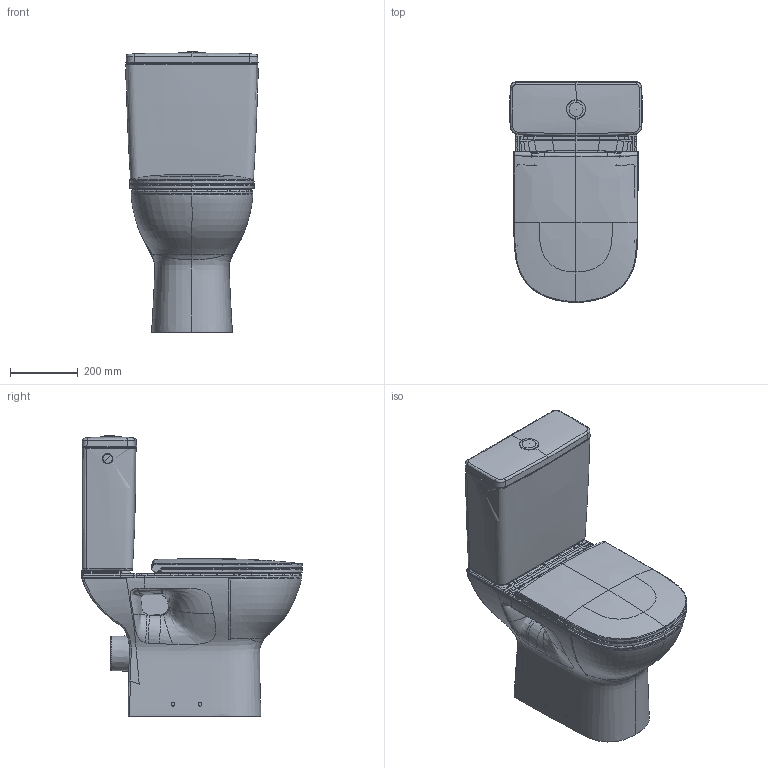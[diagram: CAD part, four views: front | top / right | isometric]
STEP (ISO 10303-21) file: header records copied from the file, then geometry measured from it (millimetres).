
FILE_DESCRIPTION(/* description */ (''),/* implementation_level */ '2;1');
FILE_NAME(/* name */ 'BIM-Kombi_824086_WC-Sitz-Tank.stp',/* time_stamp */ '2022-02-24T15:59:54+01:00',/* author */ (''),/* organization */ (''),/* preprocessor_version */ 'ST-DEVELOPER v16.7',/* originating_system */ 'SIEMENS PLM Software NX 1946',/* authorisation */ '');
FILE_SCHEMA (('AUTOMOTIVE_DESIGN { 1 0 10303 214 3 1 1 1 }'));
Products named in the file (1): stoj70DC1AFEsrhi
Bounding box: 394.95 x 651.67 x 827.56 mm (x, y, z)
Volume: 57327894.5 mm3; surface area: 2339911.2 mm2
Topology: 4 solids, 4 shells, 1274 faces, 3253 edges, 2010 vertices
Faces by surface type: bspline 918, plane 187, cylinder 101, extrusion 40, cone 17, torus 6, sphere 5
Full cylindrical faces by diameter (mm): 9 x2, 11 x4, 15 x2
Entity records: 190622 total; most frequent: CARTESIAN_POINT 168082, ORIENTED_EDGE 6448, EDGE_CURVE 3224, B_SPLINE_CURVE_WITH_KNOTS 2637, VERTEX_POINT 2002, DIRECTION 1453, EDGE_LOOP 1322, ADVANCED_FACE 1274
